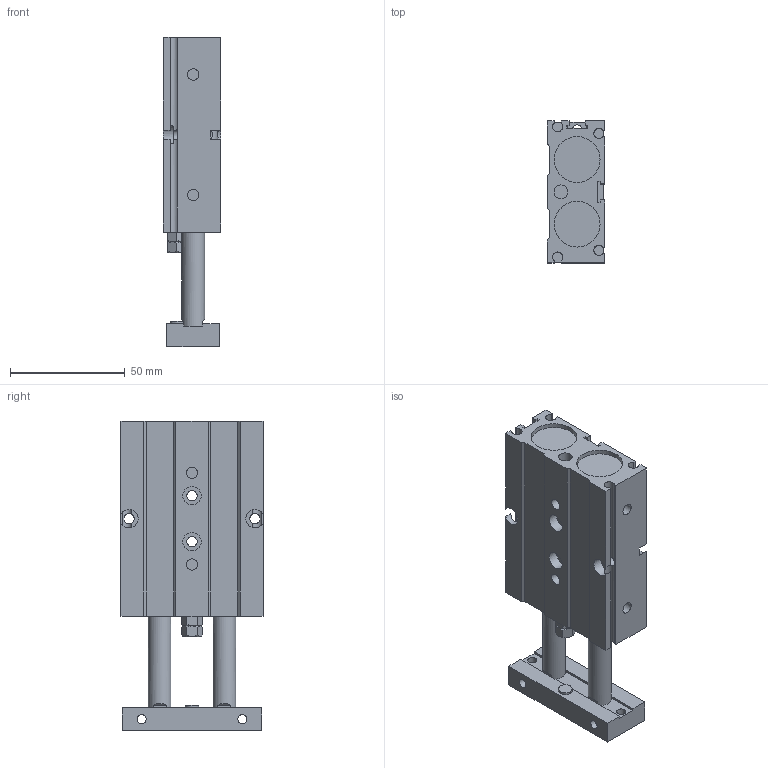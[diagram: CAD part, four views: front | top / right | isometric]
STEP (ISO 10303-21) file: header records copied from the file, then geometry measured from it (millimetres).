
FILE_DESCRIPTION((''),'2;1');
FILE_NAME('I:\3D電子目錄\氣缸\TD\TD20\TD20\TD20x30.stp','2007-08-06T09:46:54',('Administrator'),(''),'Autodesk Inventor 2008','Autodesk Inventor 2008','');
FILE_SCHEMA(('AUTOMOTIVE_DESIGN { 1 0 10303 214 1 1 1 1 }'));
Length unit declared in the file: millimetre
Products named in the file (1): TD20X30
Bounding box: 25 x 62 x 135 mm (x, y, z)
Volume: 133447.1 mm3; surface area: 33361.2 mm2
Topology: 1 solids, 3 shells, 197 faces, 503 edges, 329 vertices
Faces by surface type: plane 136, cylinder 48, cone 7, bspline 4, torus 2
Full cylindrical faces by diameter (mm): 4 x4, 4.5 x4, 5 x4, 6 x2, 7 x2, 8 x6, 9 x2, 10 x2, 20 x4
Entity records: 6108 total; most frequent: CARTESIAN_POINT 1453, DIRECTION 927, ORIENTED_EDGE 916, EDGE_CURVE 458, VERTEX_POINT 323, AXIS2_PLACEMENT_3D 310, VECTOR 307, LINE 307
